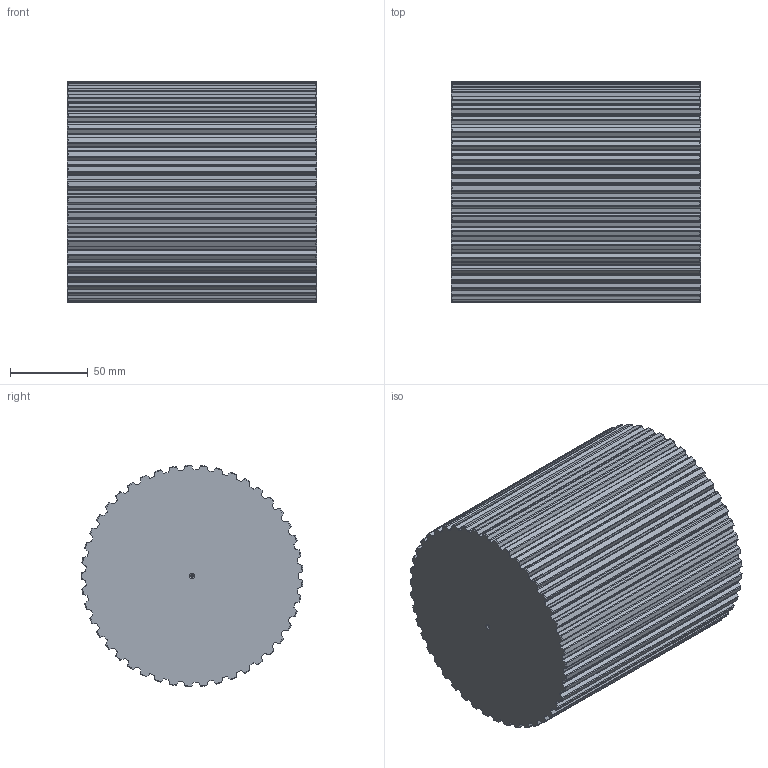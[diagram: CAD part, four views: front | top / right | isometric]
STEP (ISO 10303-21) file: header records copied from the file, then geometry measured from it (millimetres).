
FILE_DESCRIPTION(('STEP AP203'),'1');
FILE_NAME('bart_45.stp','2018-11-13T11:16:41',('TraceParts'),('TraceParts S.A.'),'Spatial InterOp 3D',' ',' ');
FILE_SCHEMA(('CONFIG_CONTROL_DESIGN'));
Length unit declared in the file: millimetre
Products named in the file (1): 1
Bounding box: 160 x 142.15 x 142.22 mm (x, y, z)
Volume: 2445141.9 mm3; surface area: 123723 mm2
Topology: 1 solids, 1 shells, 466 faces, 1384 edges, 918 vertices
Faces by surface type: cylinder 274, cone 100, plane 92
Entity records: 16826 total; most frequent: CARTESIAN_POINT 4745, ORIENTED_EDGE 2760, DIRECTION 2420, EDGE_CURVE 1380, AXIS2_PLACEMENT_3D 933, VERTEX_POINT 918, LINE 554, VECTOR 554
